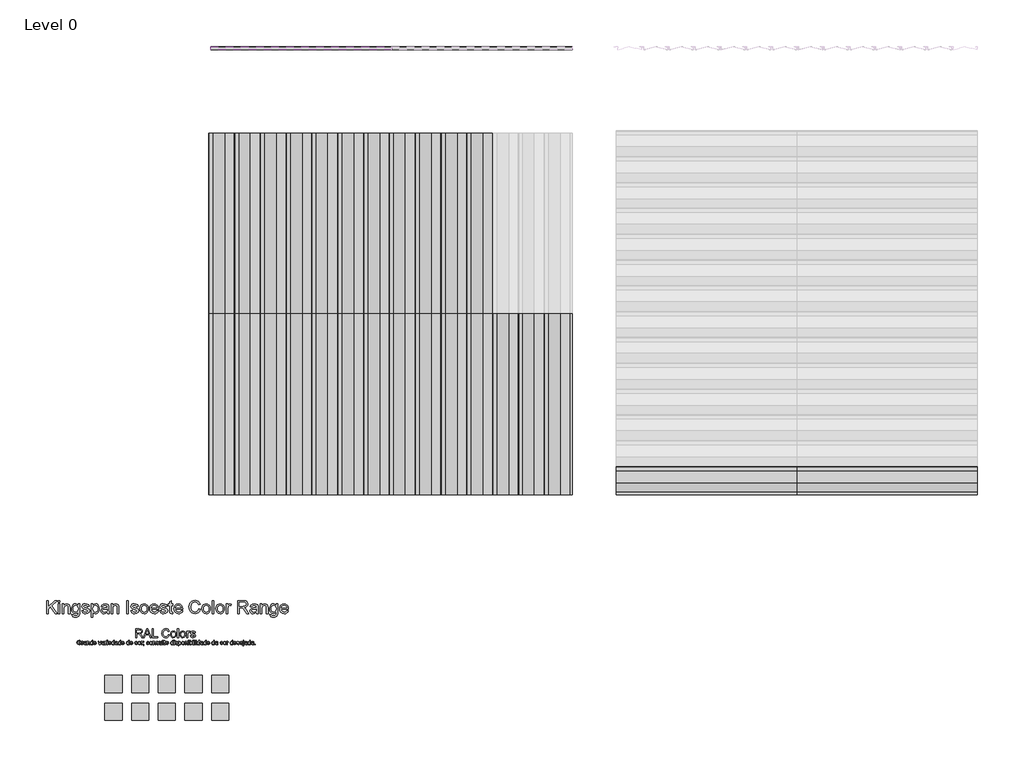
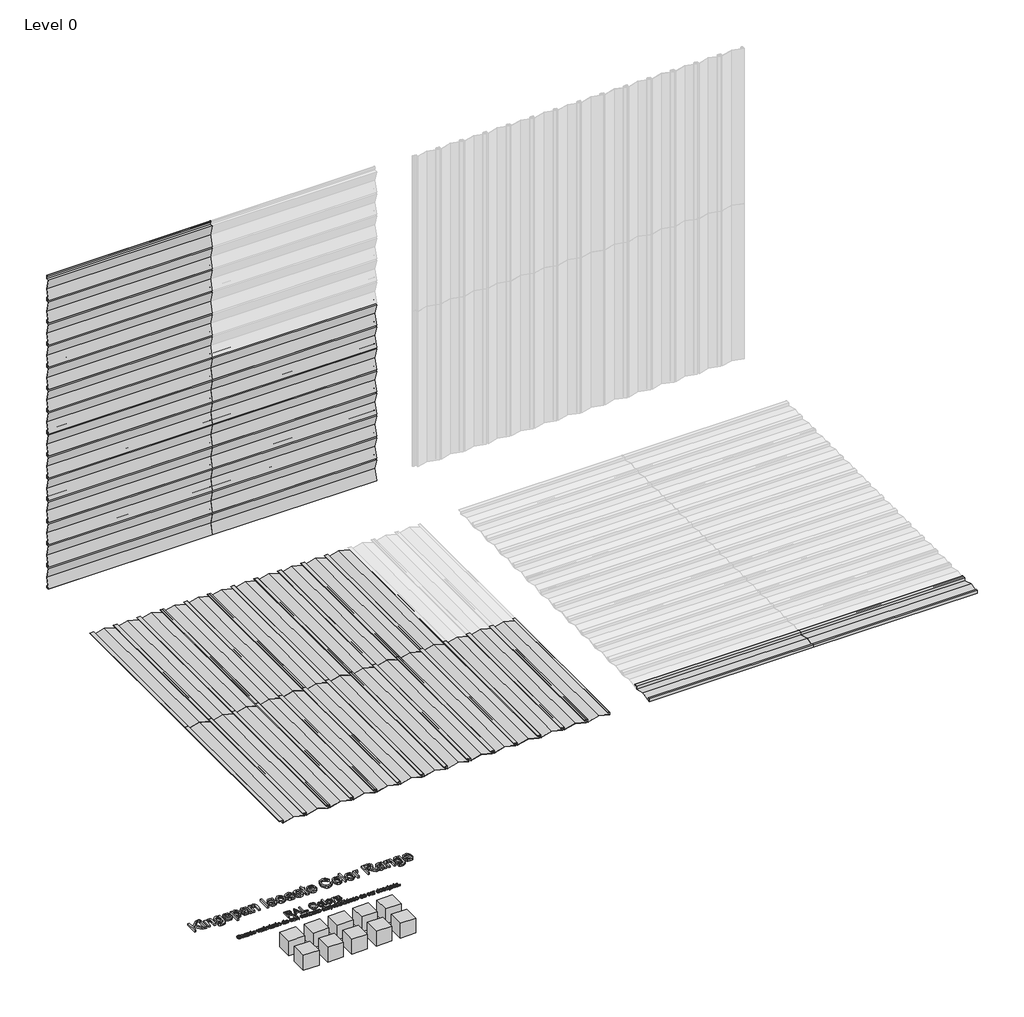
# One storey, part 1 of 2: 60 proxies.
"""IFC4 building model written with IfcOpenShell, lengths in millimetres."""

from ifc_helpers import new_model, si_unit, origin, place, context, project, spatial, transform, mapped, element, save
from components import proxy_32_ks_iso_colour_range_8220f766, proxy_32_ks_iso_colour_range_06d69407, ks_colour_sample_ks_colour_sample_0243efec, ps9_0_standard_panel_ns_52e81e55, ps9_0_standard_panel_ns_6eacb7c6

model = new_model("IFC4")

# Units and contexts
model_context = context("Model", 3, world=origin())
ifc_project = project(units=[si_unit("LENGTHUNIT", "METRE", prefix="MILLI")], contexts=[model_context])

# Site, building, storey
site = spatial("IfcSite", under=ifc_project)
building = spatial("IfcBuilding", under=site)
storey = spatial("IfcBuildingStorey", under=building, Name="Level 0", Elevation=0.0)

# Proxies
placement = place(None, origin())
proxy_32_ks_iso_colour_range_shape = proxy_32_ks_iso_colour_range_8220f766(model_context)
proxy_32_ks_iso_colour_range_2_shape = proxy_32_ks_iso_colour_range_06d69407(model_context)
element("IfcBuildingElementProxy", 1, Name="32-KS-ISO-Colour Range : Kingspan Isoeste Color Range", ObjectType="32-KS-ISO-Colour Range : Kingspan Isoeste Color Range", at=placement, inside=storey, context=model_context, shape_type="MappedRepresentation", body=[
    mapped(proxy_32_ks_iso_colour_range_shape, transform((-3929.8390717, -2223.0925896, 0.0), x_axis=(1.0, 0.0, 0.0), y_axis=(0.0, 1.0, 0.0), z_axis=(0.0, 0.0, 1.0))),
    mapped(proxy_32_ks_iso_colour_range_2_shape, transform((-3929.8390717, -2223.0925896, 0.0), x_axis=(1.0, 0.0, 0.0), y_axis=(0.0, 1.0, 0.0), z_axis=(0.0, 0.0, 1.0))),
])
ks_colour_sample_ks_colour_sample_shape = ks_colour_sample_ks_colour_sample_0243efec(model_context)
element("IfcBuildingElementProxy", 2, Name="KS_Colour Sample : KS_Colour Sample", ObjectType="KS_Colour Sample : KS_Colour Sample", at=placement, inside=storey, context=model_context, shape_type="MappedRepresentation", body=[
    mapped(ks_colour_sample_ks_colour_sample_shape, transform((-3309.8390717, -2663.0925896, 0.0), x_axis=(1.0, 0.0, 0.0), y_axis=(0.0, 1.0, 0.0), z_axis=(0.0, 0.0, 1.0))),
])
element("IfcBuildingElementProxy", 3, Name="KS_Colour Sample : KS_Colour Sample", ObjectType="KS_Colour Sample : KS_Colour Sample", at=placement, inside=storey, context=model_context, shape_type="MappedRepresentation", body=[
    mapped(ks_colour_sample_ks_colour_sample_shape, transform((-3309.8390717, -2343.0925896, 0.0), x_axis=(1.0, 0.0, 0.0), y_axis=(0.0, 1.0, 0.0), z_axis=(0.0, 0.0, 1.0))),
])
element("IfcBuildingElementProxy", 4, Name="KS_Colour Sample : KS_Colour Sample", ObjectType="KS_Colour Sample : KS_Colour Sample", at=placement, inside=storey, context=model_context, shape_type="MappedRepresentation", body=[
    mapped(ks_colour_sample_ks_colour_sample_shape, transform((-4549.8390717, -2663.0925896, 0.0), x_axis=(1.0, 0.0, 0.0), y_axis=(0.0, 1.0, 0.0), z_axis=(0.0, 0.0, 1.0))),
])
element("IfcBuildingElementProxy", 5, Name="KS_Colour Sample : KS_Colour Sample", ObjectType="KS_Colour Sample : KS_Colour Sample", at=placement, inside=storey, context=model_context, shape_type="MappedRepresentation", body=[
    mapped(ks_colour_sample_ks_colour_sample_shape, transform((-4239.8390717, -2663.0925896, 0.0), x_axis=(1.0, 0.0, 0.0), y_axis=(0.0, 1.0, 0.0), z_axis=(0.0, 0.0, 1.0))),
])
element("IfcBuildingElementProxy", 6, Name="KS_Colour Sample : KS_Colour Sample", ObjectType="KS_Colour Sample : KS_Colour Sample", at=placement, inside=storey, context=model_context, shape_type="MappedRepresentation", body=[
    mapped(ks_colour_sample_ks_colour_sample_shape, transform((-3619.8390717, -2663.0925896, 0.0), x_axis=(1.0, 0.0, 0.0), y_axis=(0.0, 1.0, 0.0), z_axis=(0.0, 0.0, 1.0))),
])
element("IfcBuildingElementProxy", 7, Name="KS_Colour Sample : KS_Colour Sample", ObjectType="KS_Colour Sample : KS_Colour Sample", at=placement, inside=storey, context=model_context, shape_type="MappedRepresentation", body=[
    mapped(ks_colour_sample_ks_colour_sample_shape, transform((-4549.8390717, -2343.0925896, 0.0), x_axis=(1.0, 0.0, 0.0), y_axis=(0.0, 1.0, 0.0), z_axis=(0.0, 0.0, 1.0))),
])
element("IfcBuildingElementProxy", 8, Name="KS_Colour Sample : KS_Colour Sample", ObjectType="KS_Colour Sample : KS_Colour Sample", at=placement, inside=storey, context=model_context, shape_type="MappedRepresentation", body=[
    mapped(ks_colour_sample_ks_colour_sample_shape, transform((-4239.8390717, -2343.0925896, 0.0), x_axis=(1.0, 0.0, 0.0), y_axis=(0.0, 1.0, 0.0), z_axis=(0.0, 0.0, 1.0))),
])
element("IfcBuildingElementProxy", 9, Name="KS_Colour Sample : KS_Colour Sample", ObjectType="KS_Colour Sample : KS_Colour Sample", at=placement, inside=storey, context=model_context, shape_type="MappedRepresentation", body=[
    mapped(ks_colour_sample_ks_colour_sample_shape, transform((-3619.8390717, -2343.0925896, 0.0), x_axis=(1.0, 0.0, 0.0), y_axis=(0.0, 1.0, 0.0), z_axis=(0.0, 0.0, 1.0))),
])
element("IfcBuildingElementProxy", 10, Name="KS_Colour Sample : KS_Colour Sample", ObjectType="KS_Colour Sample : KS_Colour Sample", at=placement, inside=storey, context=model_context, shape_type="MappedRepresentation", body=[
    mapped(ks_colour_sample_ks_colour_sample_shape, transform((-3929.8390717, -2343.0925896, 0.0), x_axis=(1.0, 0.0, 0.0), y_axis=(0.0, 1.0, 0.0), z_axis=(0.0, 0.0, 1.0))),
])
element("IfcBuildingElementProxy", 11, Name="KS_Colour Sample : KS_Colour Sample", ObjectType="KS_Colour Sample : KS_Colour Sample", at=placement, inside=storey, context=model_context, shape_type="MappedRepresentation", body=[
    mapped(ks_colour_sample_ks_colour_sample_shape, transform((-3929.8390717, -2663.0925896, 0.0), x_axis=(1.0, 0.0, 0.0), y_axis=(0.0, 1.0, 0.0), z_axis=(0.0, 0.0, 1.0))),
])
ps9_0_standard_panel_ns_shape = ps9_0_standard_panel_ns_52e81e55(model_context)
element("IfcBuildingElementProxy", 12, Name="PS9.0 : Standard Panel_NS", ObjectType="PS9.0 : Standard Panel_NS", at=placement, inside=storey, context=model_context, shape_type="MappedRepresentation", body=[
    mapped(ps9_0_standard_panel_ns_shape, transform((-3117.7637295, -141.6886547, 0.0), x_axis=(0.0, 1.0, 0.0), y_axis=(-1.0, 0.0, 0.0), z_axis=(0.0, 0.0, 1.0))),
])
element("IfcBuildingElementProxy", 13, Name="PS9.0 : Standard Panel_NS", ObjectType="PS9.0 : Standard Panel_NS", at=placement, inside=storey, context=model_context, shape_type="MappedRepresentation", body=[
    mapped(ps9_0_standard_panel_ns_shape, transform((-717.7637297, -141.6886547, 0.0), x_axis=(0.0, 1.0, 0.0), y_axis=(-1.0, 0.0, 0.0), z_axis=(0.0, 0.0, 1.0))),
])
element("IfcBuildingElementProxy", 14, Name="PS9.0 : Standard Panel_NS", ObjectType="PS9.0 : Standard Panel_NS", at=placement, inside=storey, context=model_context, shape_type="MappedRepresentation", body=[
    mapped(ps9_0_standard_panel_ns_shape, transform((-3117.7637295, 1958.3113453, 0.0), x_axis=(0.0, 1.0, 0.0), y_axis=(-1.0, 0.0, 0.0), z_axis=(0.0, 0.0, 1.0))),
])
element("IfcBuildingElementProxy", 15, Name="PS9.0 : Standard Panel_NS", ObjectType="PS9.0 : Standard Panel_NS", at=placement, inside=storey, context=model_context, shape_type="MappedRepresentation", body=[
    mapped(ps9_0_standard_panel_ns_shape, transform((-717.7637297, 1958.3113453, 0.0), x_axis=(0.0, 1.0, 0.0), y_axis=(-1.0, 0.0, 0.0), z_axis=(0.0, 0.0, 1.0))),
])
ps9_0_standard_panel_ns_2_shape = ps9_0_standard_panel_ns_6eacb7c6(model_context)
element("IfcBuildingElementProxy", 16, Name="PS9.0 : Standard Panel_NS", ObjectType="PS9.0 : Standard Panel_NS", at=placement, inside=storey, context=model_context, shape_type="MappedRepresentation", body=[
    mapped(ps9_0_standard_panel_ns_2_shape, transform((-3417.7637295, 5063.0274074, 1500.0), x_axis=(1.0, 0.0, 0.0), y_axis=(0.0, 0.0, 1.0), z_axis=(0.0, -1.0, 0.0))),
])
element("IfcBuildingElementProxy", 17, Name="PS9.0 : Standard Panel_NS", ObjectType="PS9.0 : Standard Panel_NS", at=placement, inside=storey, context=model_context, shape_type="MappedRepresentation", body=[
    mapped(ps9_0_standard_panel_ns_2_shape, transform((-3417.7637295, 5063.0274074, 3900.0), x_axis=(1.0, 0.0, 0.0), y_axis=(0.0, 0.0, 1.0), z_axis=(0.0, -1.0, 0.0))),
])
element("IfcBuildingElementProxy", 18, Name="PS9.0 : Standard Panel_NS", ObjectType="PS9.0 : Standard Panel_NS", at=placement, inside=storey, context=model_context, shape_type="MappedRepresentation", body=[
    mapped(ps9_0_standard_panel_ns_2_shape, transform((-1317.7637295, 5063.0274074, 1500.0), x_axis=(1.0, 0.0, 0.0), y_axis=(0.0, 0.0, 1.0), z_axis=(0.0, -1.0, 0.0))),
])
element("IfcBuildingElementProxy", 19, Name="PS9.0 : Standard Panel_NS", ObjectType="PS9.0 : Standard Panel_NS", at=placement, inside=storey, context=model_context, shape_type="MappedRepresentation", body=[
    mapped(ps9_0_standard_panel_ns_2_shape, transform((-3417.7637295, 5063.0274074, 0.0), x_axis=(1.0, 0.0, 0.0), y_axis=(0.0, 0.0, 1.0), z_axis=(0.0, -1.0, 0.0))),
])
element("IfcBuildingElementProxy", 20, Name="PS9.0 : Standard Panel_NS", ObjectType="PS9.0 : Standard Panel_NS", at=placement, inside=storey, context=model_context, shape_type="MappedRepresentation", body=[
    mapped(ps9_0_standard_panel_ns_2_shape, transform((-3417.7637295, 5063.0274074, 2400.0), x_axis=(1.0, 0.0, 0.0), y_axis=(0.0, 0.0, 1.0), z_axis=(0.0, -1.0, 0.0))),
])
element("IfcBuildingElementProxy", 21, Name="PS9.0 : Standard Panel_NS", ObjectType="PS9.0 : Standard Panel_NS", at=placement, inside=storey, context=model_context, shape_type="MappedRepresentation", body=[
    mapped(ps9_0_standard_panel_ns_2_shape, transform((-1317.7637295, 5063.0274074, 0.0), x_axis=(1.0, 0.0, 0.0), y_axis=(0.0, 0.0, 1.0), z_axis=(0.0, -1.0, 0.0))),
])
element("IfcBuildingElementProxy", 22, Name="PS9.0 : Standard Panel_NS", ObjectType="PS9.0 : Standard Panel_NS", at=placement, inside=storey, context=model_context, shape_type="MappedRepresentation", body=[
    mapped(ps9_0_standard_panel_ns_shape, transform((-1617.7637297, -141.6886547, 0.0), x_axis=(0.0, 1.0, 0.0), y_axis=(-1.0, 0.0, 0.0), z_axis=(0.0, 0.0, 1.0))),
])
element("IfcBuildingElementProxy", 23, Name="PS9.0 : Standard Panel_NS", ObjectType="PS9.0 : Standard Panel_NS", at=placement, inside=storey, context=model_context, shape_type="MappedRepresentation", body=[
    mapped(ps9_0_standard_panel_ns_shape, transform((1289.7088668, -141.6886547, 0.0), x_axis=(1.0, 0.0, 0.0), y_axis=(0.0, 1.0, 0.0), z_axis=(0.0, 0.0, 1.0))),
])
element("IfcBuildingElementProxy", 24, Name="PS9.0 : Standard Panel_NS", ObjectType="PS9.0 : Standard Panel_NS", at=placement, inside=storey, context=model_context, shape_type="MappedRepresentation", body=[
    mapped(ps9_0_standard_panel_ns_shape, transform((-1617.7637297, 1958.3113453, 0.0), x_axis=(0.0, 1.0, 0.0), y_axis=(-1.0, 0.0, 0.0), z_axis=(0.0, 0.0, 1.0))),
])
element("IfcBuildingElementProxy", 25, Name="PS9.0 : Standard Panel_NS", ObjectType="PS9.0 : Standard Panel_NS", at=placement, inside=storey, context=model_context, shape_type="MappedRepresentation", body=[
    mapped(ps9_0_standard_panel_ns_shape, transform((3389.7088668, -141.6886547, 0.0), x_axis=(1.0, 0.0, 0.0), y_axis=(0.0, 1.0, 0.0), z_axis=(0.0, 0.0, 1.0))),
])
element("IfcBuildingElementProxy", 26, Name="PS9.0 : Standard Panel_NS", ObjectType="PS9.0 : Standard Panel_NS", at=placement, inside=storey, context=model_context, shape_type="MappedRepresentation", body=[
    mapped(ps9_0_standard_panel_ns_shape, transform((782.2362705, -141.6886547, 0.0), x_axis=(0.0, 1.0, 0.0), y_axis=(-1.0, 0.0, 0.0), z_axis=(0.0, 0.0, 1.0))),
])
element("IfcBuildingElementProxy", 27, Name="PS9.0 : Standard Panel_NS", ObjectType="PS9.0 : Standard Panel_NS", at=placement, inside=storey, context=model_context, shape_type="MappedRepresentation", body=[
    mapped(ps9_0_standard_panel_ns_2_shape, transform((-3417.7637295, 5063.0274074, 300.0), x_axis=(1.0, 0.0, 0.0), y_axis=(0.0, 0.0, 1.0), z_axis=(0.0, -1.0, 0.0))),
])
element("IfcBuildingElementProxy", 28, Name="PS9.0 : Standard Panel_NS", ObjectType="PS9.0 : Standard Panel_NS", at=placement, inside=storey, context=model_context, shape_type="MappedRepresentation", body=[
    mapped(ps9_0_standard_panel_ns_2_shape, transform((-3417.7637295, 5063.0274074, 2700.0), x_axis=(1.0, 0.0, 0.0), y_axis=(0.0, 0.0, 1.0), z_axis=(0.0, -1.0, 0.0))),
])
element("IfcBuildingElementProxy", 29, Name="PS9.0 : Standard Panel_NS", ObjectType="PS9.0 : Standard Panel_NS", at=placement, inside=storey, context=model_context, shape_type="MappedRepresentation", body=[
    mapped(ps9_0_standard_panel_ns_2_shape, transform((-1317.7637295, 5063.0274074, 300.0), x_axis=(1.0, 0.0, 0.0), y_axis=(0.0, 0.0, 1.0), z_axis=(0.0, -1.0, 0.0))),
])
element("IfcBuildingElementProxy", 30, Name="PS9.0 : Standard Panel_NS", ObjectType="PS9.0 : Standard Panel_NS", at=placement, inside=storey, context=model_context, shape_type="MappedRepresentation", body=[
    mapped(ps9_0_standard_panel_ns_2_shape, transform((-3417.7637295, 5063.0274074, 600.0), x_axis=(1.0, 0.0, 0.0), y_axis=(0.0, 0.0, 1.0), z_axis=(0.0, -1.0, 0.0))),
])
element("IfcBuildingElementProxy", 31, Name="PS9.0 : Standard Panel_NS", ObjectType="PS9.0 : Standard Panel_NS", at=placement, inside=storey, context=model_context, shape_type="MappedRepresentation", body=[
    mapped(ps9_0_standard_panel_ns_2_shape, transform((-3417.7637295, 5063.0274074, 3000.0), x_axis=(1.0, 0.0, 0.0), y_axis=(0.0, 0.0, 1.0), z_axis=(0.0, -1.0, 0.0))),
])
element("IfcBuildingElementProxy", 32, Name="PS9.0 : Standard Panel_NS", ObjectType="PS9.0 : Standard Panel_NS", at=placement, inside=storey, context=model_context, shape_type="MappedRepresentation", body=[
    mapped(ps9_0_standard_panel_ns_2_shape, transform((-1317.7637295, 5063.0274074, 600.0), x_axis=(1.0, 0.0, 0.0), y_axis=(0.0, 0.0, 1.0), z_axis=(0.0, -1.0, 0.0))),
])
element("IfcBuildingElementProxy", 33, Name="PS9.0 : Standard Panel_NS", ObjectType="PS9.0 : Standard Panel_NS", at=placement, inside=storey, context=model_context, shape_type="MappedRepresentation", body=[
    mapped(ps9_0_standard_panel_ns_2_shape, transform((-3417.7637295, 5063.0274074, 900.0), x_axis=(1.0, 0.0, 0.0), y_axis=(0.0, 0.0, 1.0), z_axis=(0.0, -1.0, 0.0))),
])
element("IfcBuildingElementProxy", 34, Name="PS9.0 : Standard Panel_NS", ObjectType="PS9.0 : Standard Panel_NS", at=placement, inside=storey, context=model_context, shape_type="MappedRepresentation", body=[
    mapped(ps9_0_standard_panel_ns_2_shape, transform((-3417.7637295, 5063.0274074, 3300.0), x_axis=(1.0, 0.0, 0.0), y_axis=(0.0, 0.0, 1.0), z_axis=(0.0, -1.0, 0.0))),
])
element("IfcBuildingElementProxy", 35, Name="PS9.0 : Standard Panel_NS", ObjectType="PS9.0 : Standard Panel_NS", at=placement, inside=storey, context=model_context, shape_type="MappedRepresentation", body=[
    mapped(ps9_0_standard_panel_ns_2_shape, transform((-1317.7637295, 5063.0274074, 900.0), x_axis=(1.0, 0.0, 0.0), y_axis=(0.0, 0.0, 1.0), z_axis=(0.0, -1.0, 0.0))),
])
element("IfcBuildingElementProxy", 36, Name="PS9.0 : Standard Panel_NS", ObjectType="PS9.0 : Standard Panel_NS", at=placement, inside=storey, context=model_context, shape_type="MappedRepresentation", body=[
    mapped(ps9_0_standard_panel_ns_2_shape, transform((-3417.7637295, 5063.0274074, 1200.0), x_axis=(1.0, 0.0, 0.0), y_axis=(0.0, 0.0, 1.0), z_axis=(0.0, -1.0, 0.0))),
])
element("IfcBuildingElementProxy", 37, Name="PS9.0 : Standard Panel_NS", ObjectType="PS9.0 : Standard Panel_NS", at=placement, inside=storey, context=model_context, shape_type="MappedRepresentation", body=[
    mapped(ps9_0_standard_panel_ns_2_shape, transform((-3417.7637295, 5063.0274074, 3600.0), x_axis=(1.0, 0.0, 0.0), y_axis=(0.0, 0.0, 1.0), z_axis=(0.0, -1.0, 0.0))),
])
element("IfcBuildingElementProxy", 38, Name="PS9.0 : Standard Panel_NS", ObjectType="PS9.0 : Standard Panel_NS", at=placement, inside=storey, context=model_context, shape_type="MappedRepresentation", body=[
    mapped(ps9_0_standard_panel_ns_2_shape, transform((-1317.7637295, 5063.0274074, 1200.0), x_axis=(1.0, 0.0, 0.0), y_axis=(0.0, 0.0, 1.0), z_axis=(0.0, -1.0, 0.0))),
])
element("IfcBuildingElementProxy", 39, Name="PS9.0 : Standard Panel_NS", ObjectType="PS9.0 : Standard Panel_NS", at=placement, inside=storey, context=model_context, shape_type="MappedRepresentation", body=[
    mapped(ps9_0_standard_panel_ns_2_shape, transform((-3417.7637295, 5063.0274074, 1800.0), x_axis=(1.0, 0.0, 0.0), y_axis=(0.0, 0.0, 1.0), z_axis=(0.0, -1.0, 0.0))),
])
element("IfcBuildingElementProxy", 40, Name="PS9.0 : Standard Panel_NS", ObjectType="PS9.0 : Standard Panel_NS", at=placement, inside=storey, context=model_context, shape_type="MappedRepresentation", body=[
    mapped(ps9_0_standard_panel_ns_2_shape, transform((-1317.7637295, 5063.0274074, 1800.0), x_axis=(1.0, 0.0, 0.0), y_axis=(0.0, 0.0, 1.0), z_axis=(0.0, -1.0, 0.0))),
])
element("IfcBuildingElementProxy", 41, Name="PS9.0 : Standard Panel_NS", ObjectType="PS9.0 : Standard Panel_NS", at=placement, inside=storey, context=model_context, shape_type="MappedRepresentation", body=[
    mapped(ps9_0_standard_panel_ns_2_shape, transform((-3417.7637295, 5063.0274074, 2100.0), x_axis=(1.0, 0.0, 0.0), y_axis=(0.0, 0.0, 1.0), z_axis=(0.0, -1.0, 0.0))),
])
element("IfcBuildingElementProxy", 42, Name="PS9.0 : Standard Panel_NS", ObjectType="PS9.0 : Standard Panel_NS", at=placement, inside=storey, context=model_context, shape_type="MappedRepresentation", body=[
    mapped(ps9_0_standard_panel_ns_2_shape, transform((-1317.7637295, 5063.0274074, 2100.0), x_axis=(1.0, 0.0, 0.0), y_axis=(0.0, 0.0, 1.0), z_axis=(0.0, -1.0, 0.0))),
])
element("IfcBuildingElementProxy", 43, Name="PS9.0 : Standard Panel_NS", ObjectType="PS9.0 : Standard Panel_NS", at=placement, inside=storey, context=model_context, shape_type="MappedRepresentation", body=[
    mapped(ps9_0_standard_panel_ns_shape, transform((482.2362703, -141.6886547, 0.0), x_axis=(0.0, 1.0, 0.0), y_axis=(-1.0, 0.0, 0.0), z_axis=(0.0, 0.0, 1.0))),
])
element("IfcBuildingElementProxy", 44, Name="PS9.0 : Standard Panel_NS", ObjectType="PS9.0 : Standard Panel_NS", at=placement, inside=storey, context=model_context, shape_type="MappedRepresentation", body=[
    mapped(ps9_0_standard_panel_ns_shape, transform((-1917.7637297, -141.6886547, 0.0), x_axis=(0.0, 1.0, 0.0), y_axis=(-1.0, 0.0, 0.0), z_axis=(0.0, 0.0, 1.0))),
])
element("IfcBuildingElementProxy", 45, Name="PS9.0 : Standard Panel_NS", ObjectType="PS9.0 : Standard Panel_NS", at=placement, inside=storey, context=model_context, shape_type="MappedRepresentation", body=[
    mapped(ps9_0_standard_panel_ns_shape, transform((-1917.7637297, 1958.3113453, 0.0), x_axis=(0.0, 1.0, 0.0), y_axis=(-1.0, 0.0, 0.0), z_axis=(0.0, 0.0, 1.0))),
])
element("IfcBuildingElementProxy", 46, Name="PS9.0 : Standard Panel_NS", ObjectType="PS9.0 : Standard Panel_NS", at=placement, inside=storey, context=model_context, shape_type="MappedRepresentation", body=[
    mapped(ps9_0_standard_panel_ns_shape, transform((182.2362703, -141.6886547, 0.0), x_axis=(0.0, 1.0, 0.0), y_axis=(-1.0, 0.0, 0.0), z_axis=(0.0, 0.0, 1.0))),
])
element("IfcBuildingElementProxy", 47, Name="PS9.0 : Standard Panel_NS", ObjectType="PS9.0 : Standard Panel_NS", at=placement, inside=storey, context=model_context, shape_type="MappedRepresentation", body=[
    mapped(ps9_0_standard_panel_ns_shape, transform((-2217.7637297, -141.6886547, 0.0), x_axis=(0.0, 1.0, 0.0), y_axis=(-1.0, 0.0, 0.0), z_axis=(0.0, 0.0, 1.0))),
])
element("IfcBuildingElementProxy", 48, Name="PS9.0 : Standard Panel_NS", ObjectType="PS9.0 : Standard Panel_NS", at=placement, inside=storey, context=model_context, shape_type="MappedRepresentation", body=[
    mapped(ps9_0_standard_panel_ns_shape, transform((-2217.7637297, 1958.3113453, 0.0), x_axis=(0.0, 1.0, 0.0), y_axis=(-1.0, 0.0, 0.0), z_axis=(0.0, 0.0, 1.0))),
])
element("IfcBuildingElementProxy", 49, Name="PS9.0 : Standard Panel_NS", ObjectType="PS9.0 : Standard Panel_NS", at=placement, inside=storey, context=model_context, shape_type="MappedRepresentation", body=[
    mapped(ps9_0_standard_panel_ns_shape, transform((-117.7637297, -141.6886547, 0.0), x_axis=(0.0, 1.0, 0.0), y_axis=(-1.0, 0.0, 0.0), z_axis=(0.0, 0.0, 1.0))),
])
element("IfcBuildingElementProxy", 50, Name="PS9.0 : Standard Panel_NS", ObjectType="PS9.0 : Standard Panel_NS", at=placement, inside=storey, context=model_context, shape_type="MappedRepresentation", body=[
    mapped(ps9_0_standard_panel_ns_shape, transform((-2517.7637297, -141.6886547, 0.0), x_axis=(0.0, 1.0, 0.0), y_axis=(-1.0, 0.0, 0.0), z_axis=(0.0, 0.0, 1.0))),
])
element("IfcBuildingElementProxy", 51, Name="PS9.0 : Standard Panel_NS", ObjectType="PS9.0 : Standard Panel_NS", at=placement, inside=storey, context=model_context, shape_type="MappedRepresentation", body=[
    mapped(ps9_0_standard_panel_ns_shape, transform((-2517.7637297, 1958.3113453, 0.0), x_axis=(0.0, 1.0, 0.0), y_axis=(-1.0, 0.0, 0.0), z_axis=(0.0, 0.0, 1.0))),
])
element("IfcBuildingElementProxy", 52, Name="PS9.0 : Standard Panel_NS", ObjectType="PS9.0 : Standard Panel_NS", at=placement, inside=storey, context=model_context, shape_type="MappedRepresentation", body=[
    mapped(ps9_0_standard_panel_ns_shape, transform((-117.7637297, 1958.3113453, 0.0), x_axis=(0.0, 1.0, 0.0), y_axis=(-1.0, 0.0, 0.0), z_axis=(0.0, 0.0, 1.0))),
])
element("IfcBuildingElementProxy", 53, Name="PS9.0 : Standard Panel_NS", ObjectType="PS9.0 : Standard Panel_NS", at=placement, inside=storey, context=model_context, shape_type="MappedRepresentation", body=[
    mapped(ps9_0_standard_panel_ns_shape, transform((-417.7637297, -141.6886547, 0.0), x_axis=(0.0, 1.0, 0.0), y_axis=(-1.0, 0.0, 0.0), z_axis=(0.0, 0.0, 1.0))),
])
element("IfcBuildingElementProxy", 54, Name="PS9.0 : Standard Panel_NS", ObjectType="PS9.0 : Standard Panel_NS", at=placement, inside=storey, context=model_context, shape_type="MappedRepresentation", body=[
    mapped(ps9_0_standard_panel_ns_shape, transform((-2817.7637297, -141.6886547, 0.0), x_axis=(0.0, 1.0, 0.0), y_axis=(-1.0, 0.0, 0.0), z_axis=(0.0, 0.0, 1.0))),
])
element("IfcBuildingElementProxy", 55, Name="PS9.0 : Standard Panel_NS", ObjectType="PS9.0 : Standard Panel_NS", at=placement, inside=storey, context=model_context, shape_type="MappedRepresentation", body=[
    mapped(ps9_0_standard_panel_ns_shape, transform((-2817.7637297, 1958.3113453, 0.0), x_axis=(0.0, 1.0, 0.0), y_axis=(-1.0, 0.0, 0.0), z_axis=(0.0, 0.0, 1.0))),
])
element("IfcBuildingElementProxy", 56, Name="PS9.0 : Standard Panel_NS", ObjectType="PS9.0 : Standard Panel_NS", at=placement, inside=storey, context=model_context, shape_type="MappedRepresentation", body=[
    mapped(ps9_0_standard_panel_ns_shape, transform((-417.7637297, 1958.3113453, 0.0), x_axis=(0.0, 1.0, 0.0), y_axis=(-1.0, 0.0, 0.0), z_axis=(0.0, 0.0, 1.0))),
])
element("IfcBuildingElementProxy", 57, Name="PS9.0 : Standard Panel_NS", ObjectType="PS9.0 : Standard Panel_NS", at=placement, inside=storey, context=model_context, shape_type="MappedRepresentation", body=[
    mapped(ps9_0_standard_panel_ns_shape, transform((-1017.7637297, -141.6886547, 0.0), x_axis=(0.0, 1.0, 0.0), y_axis=(-1.0, 0.0, 0.0), z_axis=(0.0, 0.0, 1.0))),
])
element("IfcBuildingElementProxy", 58, Name="PS9.0 : Standard Panel_NS", ObjectType="PS9.0 : Standard Panel_NS", at=placement, inside=storey, context=model_context, shape_type="MappedRepresentation", body=[
    mapped(ps9_0_standard_panel_ns_shape, transform((-1017.7637297, 1958.3113453, 0.0), x_axis=(0.0, 1.0, 0.0), y_axis=(-1.0, 0.0, 0.0), z_axis=(0.0, 0.0, 1.0))),
])
element("IfcBuildingElementProxy", 59, Name="PS9.0 : Standard Panel_NS", ObjectType="PS9.0 : Standard Panel_NS", at=placement, inside=storey, context=model_context, shape_type="MappedRepresentation", body=[
    mapped(ps9_0_standard_panel_ns_shape, transform((-1317.7637297, -141.6886547, 0.0), x_axis=(0.0, 1.0, 0.0), y_axis=(-1.0, 0.0, 0.0), z_axis=(0.0, 0.0, 1.0))),
])
element("IfcBuildingElementProxy", 60, Name="PS9.0 : Standard Panel_NS", ObjectType="PS9.0 : Standard Panel_NS", at=placement, inside=storey, context=model_context, shape_type="MappedRepresentation", body=[
    mapped(ps9_0_standard_panel_ns_shape, transform((-1317.7637297, 1958.3113453, 0.0), x_axis=(0.0, 1.0, 0.0), y_axis=(-1.0, 0.0, 0.0), z_axis=(0.0, 0.0, 1.0))),
])

save(model, "model.ifc")
